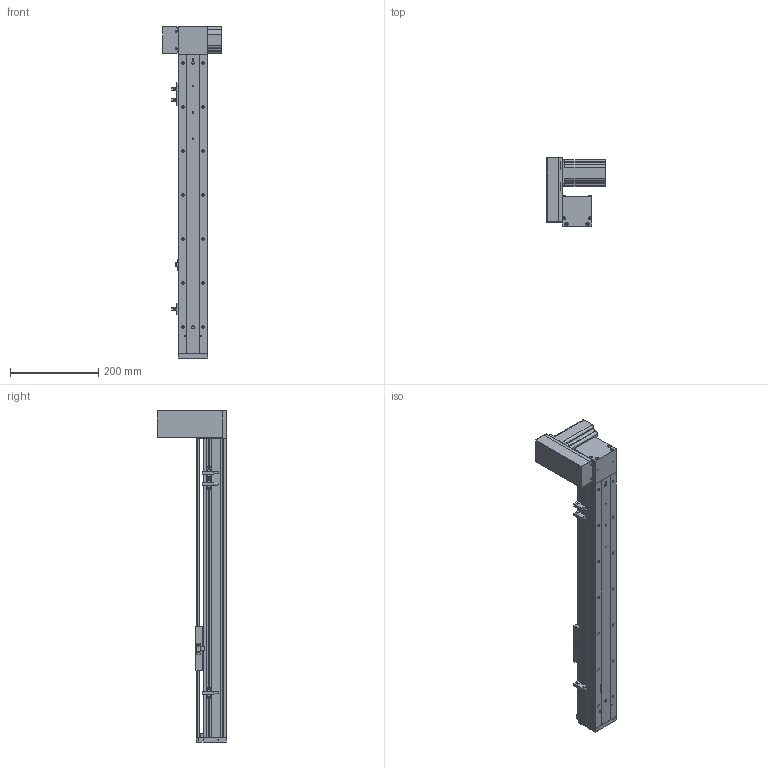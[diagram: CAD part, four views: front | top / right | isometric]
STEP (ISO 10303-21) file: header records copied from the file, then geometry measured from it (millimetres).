
FILE_DESCRIPTION (( 'STEP AP203' ), '1' );
FILE_NAME ('ML68-S500-UR.STEP', '2016-08-05T00:49:53', ( '' ), ( '' ), 'SwSTEP 2.0', 'SolidWorks 2014', '' );
FILE_SCHEMA (( 'CONFIG_CONTROL_DESIGN' ));
Length unit declared in the file: millimetre
Products named in the file (12): 三协电机MH201N2_預設; 葩璃 ML68菁釱^ML68-S500-UR; ML68奻裔^ML68-S500-UR; ML68滅鳥啣盓傅輸; QS68酘衵殏萇儂啣; ML68傷啣; 60換覜結え; ML68-BL傷啣; 換覜ん; QS68左右折电机板罩子; ML68-S500-UR; ML68雄赽釱
Assembly tree (13 placements, depth 2):
  ML68-S500-UR
    葩璃 ML68菁釱^ML68-S500-UR
    ML68奻裔^ML68-S500-UR
    ML68傷啣
    ML68-BL傷啣
    60換覜結え
    換覜ん  x3
    三协电机MH201N2_預設
    ML68雄赽釱
    QS68酘衵殏萇儂啣
    QS68左右折电机板罩子
    ML68滅鳥啣盓傅輸
Bounding box: 133.5 x 157 x 754 mm (x, y, z)
Volume: 1544226.8 mm3; surface area: 562886.5 mm2
Topology: 13 solids, 13 shells, 905 faces, 2476 edges, 1569 vertices
Faces by surface type: cylinder 412, plane 397, cone 96
Entity records: 28640 total; most frequent: CARTESIAN_POINT 5466, DIRECTION 4690, ORIENTED_EDGE 4452, EDGE_CURVE 2226, AXIS2_PLACEMENT_3D 1693, VERTEX_POINT 1457, VECTOR 1304, LINE 1304
